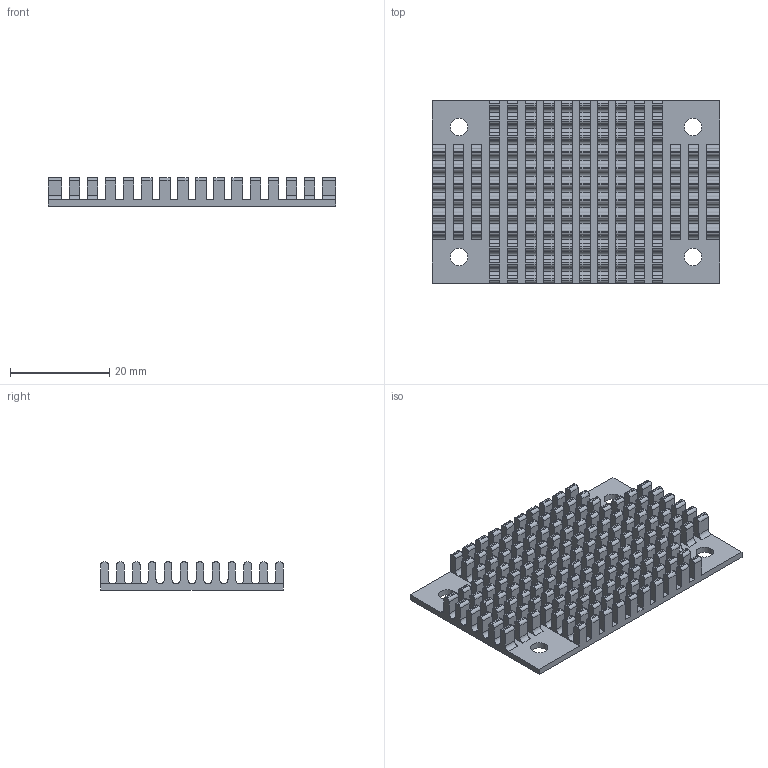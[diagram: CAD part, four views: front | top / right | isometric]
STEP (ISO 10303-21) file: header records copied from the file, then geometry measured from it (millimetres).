
FILE_DESCRIPTION(/* description */ (''),/* implementation_level */ '2;1');
FILE_NAME(/* name */ 'C:\Users\QIU\Desktop\MTQZ50、MTQZ75(3D Heatsink).stp',/* time_stamp */ '2018-05-21T11:08:31+08:00',/* author */ ('QIU'),/* organization */ (''),/* preprocessor_version */ 'ST-DEVELOPER v15.2',/* originating_system */ 'Autodesk Inventor 2014',/* authorisation */ '');
FILE_SCHEMA (('AUTOMOTIVE_DESIGN { 1 0 10303 214 3 1 1 }'));
Length unit declared in the file: millimetre
Products named in the file (1): MTQZ-50+75 鋁擠型散熱片(3D)
Bounding box: 57.9 x 36.8 x 5.7 mm (x, y, z)
Volume: 5027.5 mm3; surface area: 9177.2 mm2
Topology: 1 solids, 1 shells, 1114 faces, 3324 edges, 2216 vertices
Faces by surface type: cylinder 608, plane 506
Full cylindrical faces by diameter (mm): 3.5 x4
Entity records: 37859 total; most frequent: DIRECTION 6766, CARTESIAN_POINT 6651, ORIENTED_EDGE 6640, EDGE_CURVE 3320, AXIS2_PLACEMENT_3D 2331, VERTEX_POINT 2216, LINE 2104, VECTOR 2104
